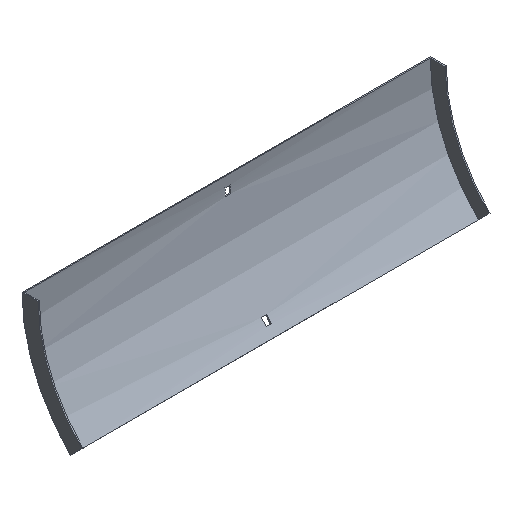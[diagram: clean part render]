
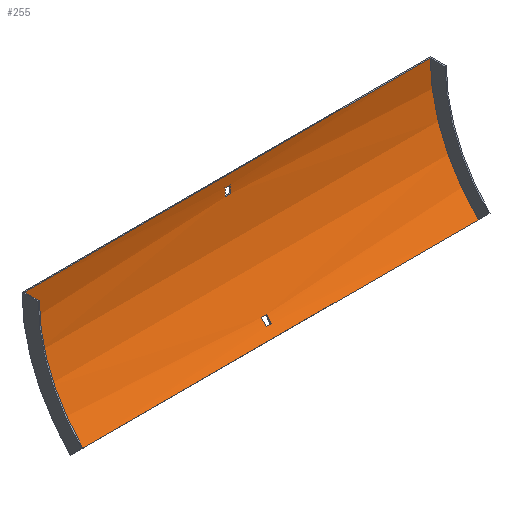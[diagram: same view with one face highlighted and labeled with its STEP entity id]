
A CAD part, isometric view. The second image highlights one B-rep face of the part: STEP entity #255.
In plain terms, the highlighted cylindrical face has radius 204 mm (diameter 408 mm), a partial arc.
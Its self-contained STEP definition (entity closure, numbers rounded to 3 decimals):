
#10 = FACE_BOUND ( 'NONE', #604, .T. ) ;
#11 = VERTEX_POINT ( 'NONE', #395 ) ;
#13 = VERTEX_POINT ( 'NONE', #299 ) ;
#15 = LINE ( 'NONE', #209, #570 ) ;
#16 = VERTEX_POINT ( 'NONE', #536 ) ;
#18 = VERTEX_POINT ( 'NONE', #211 ) ;
#22 = LINE ( 'NONE', #356, #400 ) ;
#23 = ORIENTED_EDGE ( 'NONE', *, *, #484, .T. ) ;
#32 = DIRECTION ( 'NONE',  ( -1., 0., 0. ) ) ;
#37 = DIRECTION ( 'NONE',  ( 1., 0., 0. ) ) ;
#40 = CIRCLE ( 'NONE', #467, 204. ) ;
#46 = DIRECTION ( 'NONE',  ( -1., 0., 0. ) ) ;
#48 = EDGE_CURVE ( 'NONE', #16, #217, #215, .T. ) ;
#59 = ORIENTED_EDGE ( 'NONE', *, *, #391, .F. ) ;
#73 = DIRECTION ( 'NONE',  ( 1., 0., 0. ) ) ;
#74 = VERTEX_POINT ( 'NONE', #76 ) ;
#76 = CARTESIAN_POINT ( 'NONE',  ( 3.25, -2.584, -21. ) ) ;
#79 = AXIS2_PLACEMENT_3D ( 'NONE', #329, #338, #429 ) ;
#82 = EDGE_CURVE ( 'NONE', #18, #125, #40, .T. ) ;
#85 = DIRECTION ( 'NONE',  ( 0., 0., -1. ) ) ;
#92 = DIRECTION ( 'NONE',  ( 1., 0., 0. ) ) ;
#94 = CIRCLE ( 'NONE', #79, 204. ) ;
#100 = ORIENTED_EDGE ( 'NONE', *, *, #578, .T. ) ;
#104 = AXIS2_PLACEMENT_3D ( 'NONE', #368, #46, #424 ) ;
#107 = CARTESIAN_POINT ( 'NONE',  ( -252., -61.25, -144.25 ) ) ;
#113 = FACE_BOUND ( 'NONE', #207, .T. ) ;
#114 = CARTESIAN_POINT ( 'NONE',  ( 252., -1.5, 0. ) ) ;
#115 = VERTEX_POINT ( 'NONE', #369 ) ;
#116 = EDGE_CURVE ( 'NONE', #11, #74, #364, .T. ) ;
#121 = DIRECTION ( 'NONE',  ( 0., 0., -1. ) ) ;
#122 = DIRECTION ( 'NONE',  ( -1., 0., 0. ) ) ;
#123 = VERTEX_POINT ( 'NONE', #266 ) ;
#125 = VERTEX_POINT ( 'NONE', #506 ) ;
#147 = EDGE_CURVE ( 'NONE', #74, #490, #257, .T. ) ;
#154 = EDGE_CURVE ( 'NONE', #13, #18, #453, .T. ) ;
#156 = CYLINDRICAL_SURFACE ( 'NONE', #485, 204. ) ;
#166 = CIRCLE ( 'NONE', #104, 204. ) ;
#180 = AXIS2_PLACEMENT_3D ( 'NONE', #358, #581, #547 ) ;
#189 = ORIENTED_EDGE ( 'NONE', *, *, #154, .T. ) ;
#194 = VERTEX_POINT ( 'NONE', #107 ) ;
#207 = EDGE_LOOP ( 'NONE', ( #59, #341, #572, #307 ) ) ;
#209 = CARTESIAN_POINT ( 'NONE',  ( 252., -61.25, -144.25 ) ) ;
#211 = CARTESIAN_POINT ( 'NONE',  ( -3.25, -53.015, -135.515 ) ) ;
#215 = LINE ( 'NONE', #114, #585 ) ;
#217 = VERTEX_POINT ( 'NONE', #377 ) ;
#220 = DIRECTION ( 'NONE',  ( 1., 0., 0. ) ) ;
#255 = ADVANCED_FACE ( 'NONE', ( #113, #535, #10 ), #156, .F. ) ;
#257 = CIRCLE ( 'NONE', #549, 204. ) ;
#261 = EDGE_CURVE ( 'NONE', #123, #194, #15, .T. ) ;
#266 = CARTESIAN_POINT ( 'NONE',  ( 252., -61.25, -144.25 ) ) ;
#272 = CARTESIAN_POINT ( 'NONE',  ( 253.5, -2.584, -21. ) ) ;
#280 = AXIS2_PLACEMENT_3D ( 'NONE', #514, #92, #462 ) ;
#298 = DIRECTION ( 'NONE',  ( -1., 0., 0. ) ) ;
#299 = CARTESIAN_POINT ( 'NONE',  ( 3.25, -53.015, -135.515 ) ) ;
#307 = ORIENTED_EDGE ( 'NONE', *, *, #116, .F. ) ;
#316 = ORIENTED_EDGE ( 'NONE', *, *, #261, .F. ) ;
#322 = CARTESIAN_POINT ( 'NONE',  ( -3.25, -205.5, 0. ) ) ;
#327 = ORIENTED_EDGE ( 'NONE', *, *, #518, .F. ) ;
#329 = CARTESIAN_POINT ( 'NONE',  ( 3.25, -205.5, 0. ) ) ;
#338 = DIRECTION ( 'NONE',  ( -1., 0., 0. ) ) ;
#339 = VECTOR ( 'NONE', #122, 1000. ) ;
#341 = ORIENTED_EDGE ( 'NONE', *, *, #561, .F. ) ;
#342 = CARTESIAN_POINT ( 'NONE',  ( 253.5, -205.5, 0. ) ) ;
#352 = CARTESIAN_POINT ( 'NONE',  ( -3.25, -1.853, -12. ) ) ;
#356 = CARTESIAN_POINT ( 'NONE',  ( 253.5, -47.167, -128.634 ) ) ;
#357 = CARTESIAN_POINT ( 'NONE',  ( 253.5, -53.015, -135.515 ) ) ;
#358 = CARTESIAN_POINT ( 'NONE',  ( -252., -205.5, 0. ) ) ;
#364 = LINE ( 'NONE', #272, #538 ) ;
#367 = CARTESIAN_POINT ( 'NONE',  ( 253.5, -1.853, -12. ) ) ;
#368 = CARTESIAN_POINT ( 'NONE',  ( -3.25, -205.5, 0. ) ) ;
#369 = CARTESIAN_POINT ( 'NONE',  ( 3.25, -47.167, -128.634 ) ) ;
#372 = VERTEX_POINT ( 'NONE', #352 ) ;
#377 = CARTESIAN_POINT ( 'NONE',  ( -252., -1.5, 0. ) ) ;
#389 = ORIENTED_EDGE ( 'NONE', *, *, #435, .T. ) ;
#391 = EDGE_CURVE ( 'NONE', #372, #11, #166, .T. ) ;
#395 = CARTESIAN_POINT ( 'NONE',  ( -3.25, -2.584, -21. ) ) ;
#400 = VECTOR ( 'NONE', #73, 1000. ) ;
#407 = LINE ( 'NONE', #367, #339 ) ;
#423 = CIRCLE ( 'NONE', #180, 204. ) ;
#424 = DIRECTION ( 'NONE',  ( 0., 0., 1. ) ) ;
#429 = DIRECTION ( 'NONE',  ( 0., 0., 1. ) ) ;
#435 = EDGE_CURVE ( 'NONE', #115, #13, #94, .T. ) ;
#436 = DIRECTION ( 'NONE',  ( 0., 0., 1. ) ) ;
#438 = DIRECTION ( 'NONE',  ( -1., 0., 0. ) ) ;
#452 = ORIENTED_EDGE ( 'NONE', *, *, #48, .T. ) ;
#453 = LINE ( 'NONE', #357, #597 ) ;
#460 = CARTESIAN_POINT ( 'NONE',  ( 3.25, -205.5, 0. ) ) ;
#462 = DIRECTION ( 'NONE',  ( 0., 0., 1. ) ) ;
#467 = AXIS2_PLACEMENT_3D ( 'NONE', #322, #220, #121 ) ;
#472 = EDGE_LOOP ( 'NONE', ( #327, #316, #23, #452 ) ) ;
#478 = CIRCLE ( 'NONE', #280, 204. ) ;
#479 = DIRECTION ( 'NONE',  ( -1., 0., 0. ) ) ;
#482 = ORIENTED_EDGE ( 'NONE', *, *, #82, .T. ) ;
#484 = EDGE_CURVE ( 'NONE', #123, #16, #478, .T. ) ;
#485 = AXIS2_PLACEMENT_3D ( 'NONE', #342, #479, #436 ) ;
#490 = VERTEX_POINT ( 'NONE', #566 ) ;
#506 = CARTESIAN_POINT ( 'NONE',  ( -3.25, -47.167, -128.634 ) ) ;
#514 = CARTESIAN_POINT ( 'NONE',  ( 252., -205.5, 0. ) ) ;
#518 = EDGE_CURVE ( 'NONE', #194, #217, #423, .T. ) ;
#535 = FACE_OUTER_BOUND ( 'NONE', #472, .T. ) ;
#536 = CARTESIAN_POINT ( 'NONE',  ( 252., -1.5, 0. ) ) ;
#538 = VECTOR ( 'NONE', #552, 1000. ) ;
#547 = DIRECTION ( 'NONE',  ( 0., 0., 1. ) ) ;
#549 = AXIS2_PLACEMENT_3D ( 'NONE', #460, #37, #85 ) ;
#552 = DIRECTION ( 'NONE',  ( 1., 0., 0. ) ) ;
#561 = EDGE_CURVE ( 'NONE', #490, #372, #407, .T. ) ;
#566 = CARTESIAN_POINT ( 'NONE',  ( 3.25, -1.853, -12. ) ) ;
#570 = VECTOR ( 'NONE', #298, 1000. ) ;
#572 = ORIENTED_EDGE ( 'NONE', *, *, #147, .F. ) ;
#578 = EDGE_CURVE ( 'NONE', #125, #115, #22, .T. ) ;
#581 = DIRECTION ( 'NONE',  ( 1., 0., 0. ) ) ;
#585 = VECTOR ( 'NONE', #438, 1000. ) ;
#597 = VECTOR ( 'NONE', #32, 1000. ) ;
#604 = EDGE_LOOP ( 'NONE', ( #189, #482, #100, #389 ) ) ;
